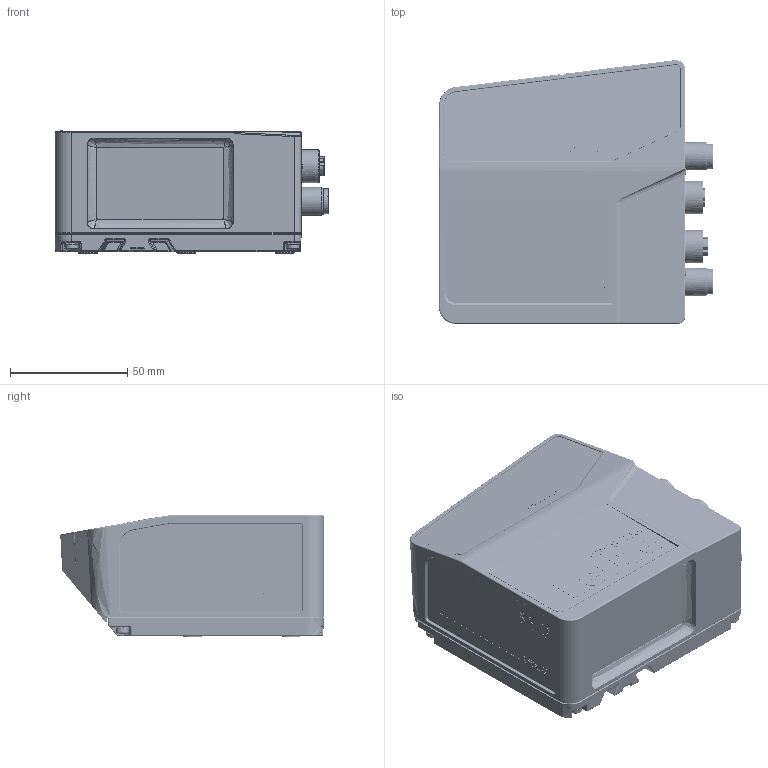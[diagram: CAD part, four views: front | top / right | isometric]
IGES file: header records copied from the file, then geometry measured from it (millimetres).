
Global section: file name: 3DCAD_FBPS648i_07_SM_100.igs; native system: NX V2306; preprocessor: SIEMENS PLM Software NX2306.9180; date: 20250821.140212; units: millimetre
Bounding box: 116.9 x 112.45 x 52.19 mm (x, y, z)
Surface area: 56422.4 mm2 (no closed solid volume)
Topology: 0 solids, 0 shells, 2559 faces, 14538 edges, 14277 vertices
Faces by surface type: bspline 2559
